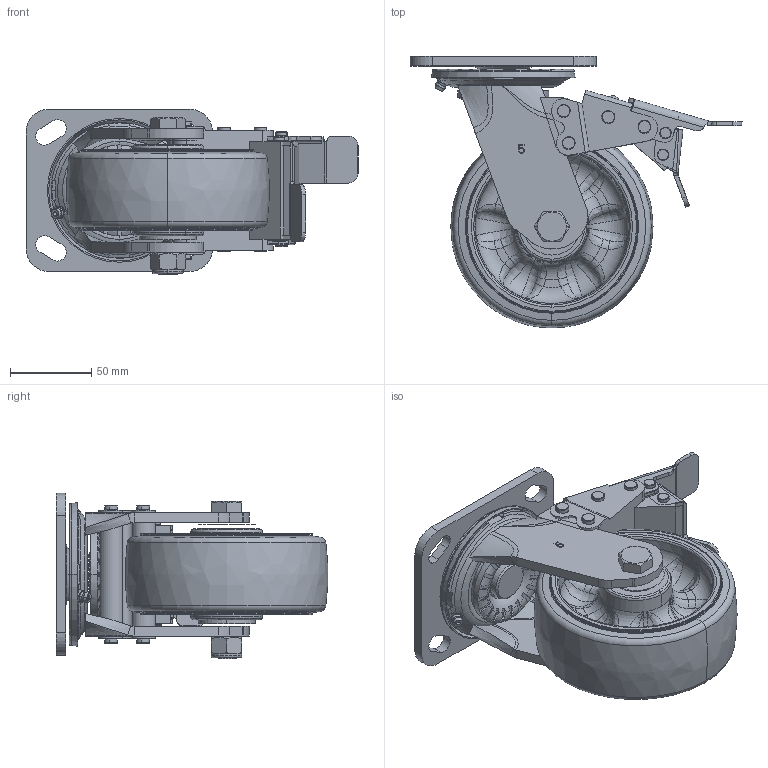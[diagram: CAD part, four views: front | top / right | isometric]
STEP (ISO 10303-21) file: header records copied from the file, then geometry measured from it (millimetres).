
FILE_DESCRIPTION((''),'2;1');
FILE_NAME('PRT0011','2026-01-06T13:24:58',('Administrator'),(''),'CREO PARAMETRIC BY PTC INC, 2022124','CREO PARAMETRIC BY PTC INC, 2022124','');
FILE_SCHEMA(('AUTOMOTIVE_DESIGN { 1 0 10303 214 1 1 1 1 }'));
Products named in the file (1): PRT0011
Bounding box: 204.68 x 167.36 x 102 mm (x, y, z)
Surface area: 147480.4 mm2 (no closed solid volume)
Topology: 0 solids, 48 shells, 674 faces, 2297 edges, 1570 vertices
Faces by surface type: bspline 197, plane 194, torus 128, cylinder 114, cone 40, extrusion 1
Entity records: 53292 total; most frequent: CARTESIAN_POINT 30426, ORIENTED_EDGE 3623, DIRECTION 3359, EDGE_CURVE 2251, VERTEX_POINT 1570, AXIS2_PLACEMENT_3D 1226, VECTOR 904, LINE 903
